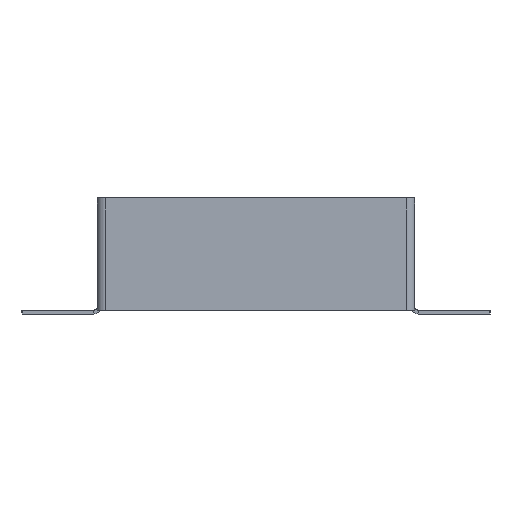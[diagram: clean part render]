
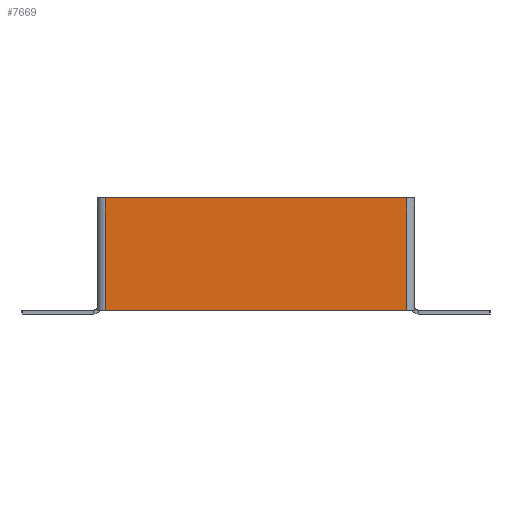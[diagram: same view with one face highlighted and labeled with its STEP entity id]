
A CAD part, front view. The second image highlights one B-rep face of the part: STEP entity #7669.
In plain terms, the highlighted planar face has unit normal (0, -1, 0).
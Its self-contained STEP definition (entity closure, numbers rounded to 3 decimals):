
#343 = DIRECTION ( 'NONE',  ( 0., 0., -1. ) ) ;
#379 = ORIENTED_EDGE ( 'NONE', *, *, #2517, .T. ) ;
#799 = CARTESIAN_POINT ( 'NONE',  ( 0., -2., 0. ) ) ;
#863 = ORIENTED_EDGE ( 'NONE', *, *, #7998, .T. ) ;
#943 = DIRECTION ( 'NONE',  ( 1., 0., 0. ) ) ;
#1087 = EDGE_LOOP ( 'NONE', ( #863, #1524, #379, #6210 ) ) ;
#1197 = EDGE_CURVE ( 'NONE', #6933, #4163, #4510, .T. ) ;
#1511 = DIRECTION ( 'NONE',  ( -1., 0., 0. ) ) ;
#1524 = ORIENTED_EDGE ( 'NONE', *, *, #1197, .F. ) ;
#1665 = VECTOR ( 'NONE', #5723, 1000. ) ;
#1715 = VECTOR ( 'NONE', #943, 1000. ) ;
#2140 = DIRECTION ( 'NONE',  ( 0., 1., 0. ) ) ;
#2303 = CARTESIAN_POINT ( 'NONE',  ( -78., -2., -58. ) ) ;
#2517 = EDGE_CURVE ( 'NONE', #6933, #4666, #5671, .T. ) ;
#2814 = VERTEX_POINT ( 'NONE', #6499 ) ;
#3226 = FACE_OUTER_BOUND ( 'NONE', #1087, .T. ) ;
#3555 = AXIS2_PLACEMENT_3D ( 'NONE', #799, #2140, #7113 ) ;
#4163 = VERTEX_POINT ( 'NONE', #2303 ) ;
#4251 = EDGE_CURVE ( 'NONE', #2814, #4666, #6505, .T. ) ;
#4293 = CARTESIAN_POINT ( 'NONE',  ( 78., -2., 0. ) ) ;
#4510 = LINE ( 'NONE', #5763, #6150 ) ;
#4666 = VERTEX_POINT ( 'NONE', #4293 ) ;
#5544 = LINE ( 'NONE', #6030, #5998 ) ;
#5671 = LINE ( 'NONE', #8487, #1665 ) ;
#5723 = DIRECTION ( 'NONE',  ( 0., 0., 1. ) ) ;
#5763 = CARTESIAN_POINT ( 'NONE',  ( -80., -2., -58. ) ) ;
#5998 = VECTOR ( 'NONE', #343, 1000. ) ;
#6030 = CARTESIAN_POINT ( 'NONE',  ( -78., -2., 0. ) ) ;
#6150 = VECTOR ( 'NONE', #1511, 1000. ) ;
#6210 = ORIENTED_EDGE ( 'NONE', *, *, #4251, .F. ) ;
#6499 = CARTESIAN_POINT ( 'NONE',  ( -78., -2., 0. ) ) ;
#6505 = LINE ( 'NONE', #8745, #1715 ) ;
#6933 = VERTEX_POINT ( 'NONE', #6947 ) ;
#6947 = CARTESIAN_POINT ( 'NONE',  ( 78., -2., -58. ) ) ;
#7113 = DIRECTION ( 'NONE',  ( 0., 0., 1. ) ) ;
#7669 = ADVANCED_FACE ( 'NONE', ( #3226 ), #7797, .F. ) ;
#7797 = PLANE ( 'NONE',  #3555 ) ;
#7998 = EDGE_CURVE ( 'NONE', #2814, #4163, #5544, .T. ) ;
#8487 = CARTESIAN_POINT ( 'NONE',  ( 78., -2., -58. ) ) ;
#8745 = CARTESIAN_POINT ( 'NONE',  ( -80., -2., 0. ) ) ;
